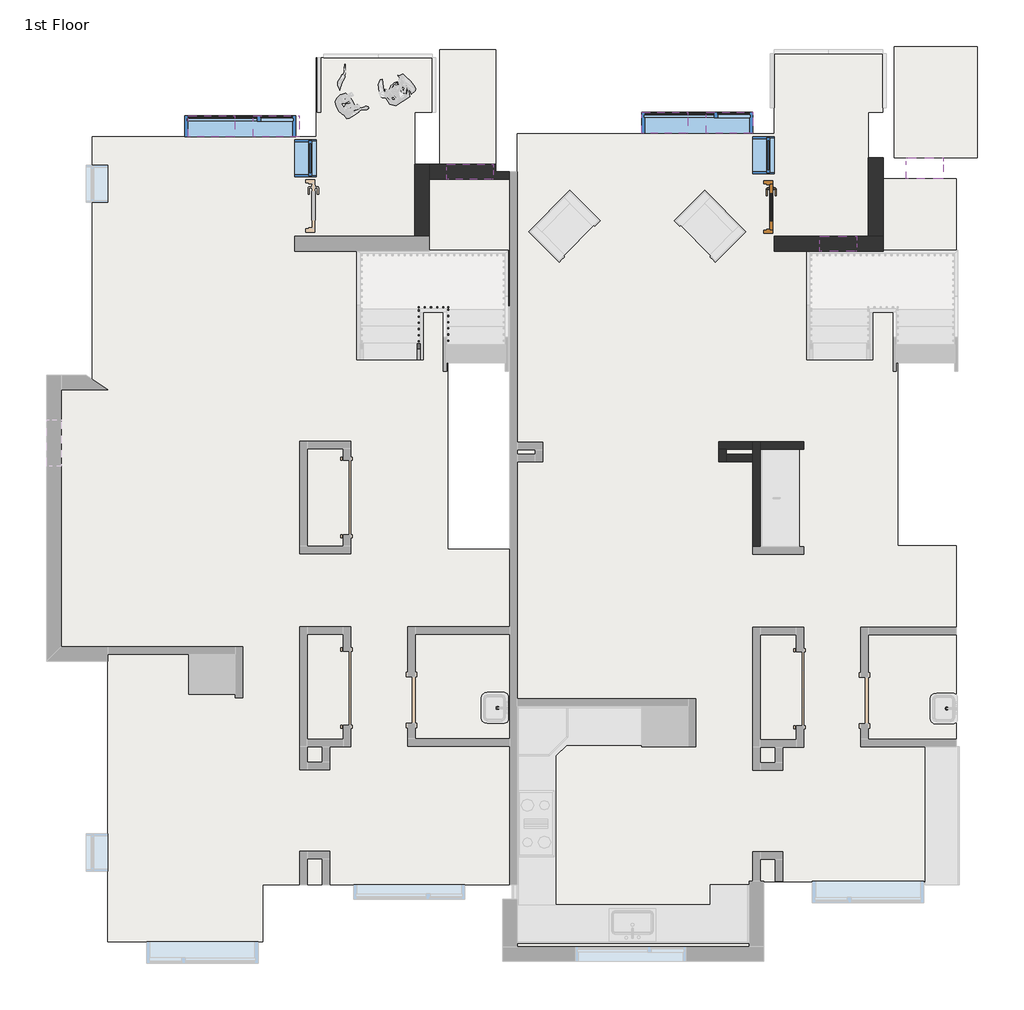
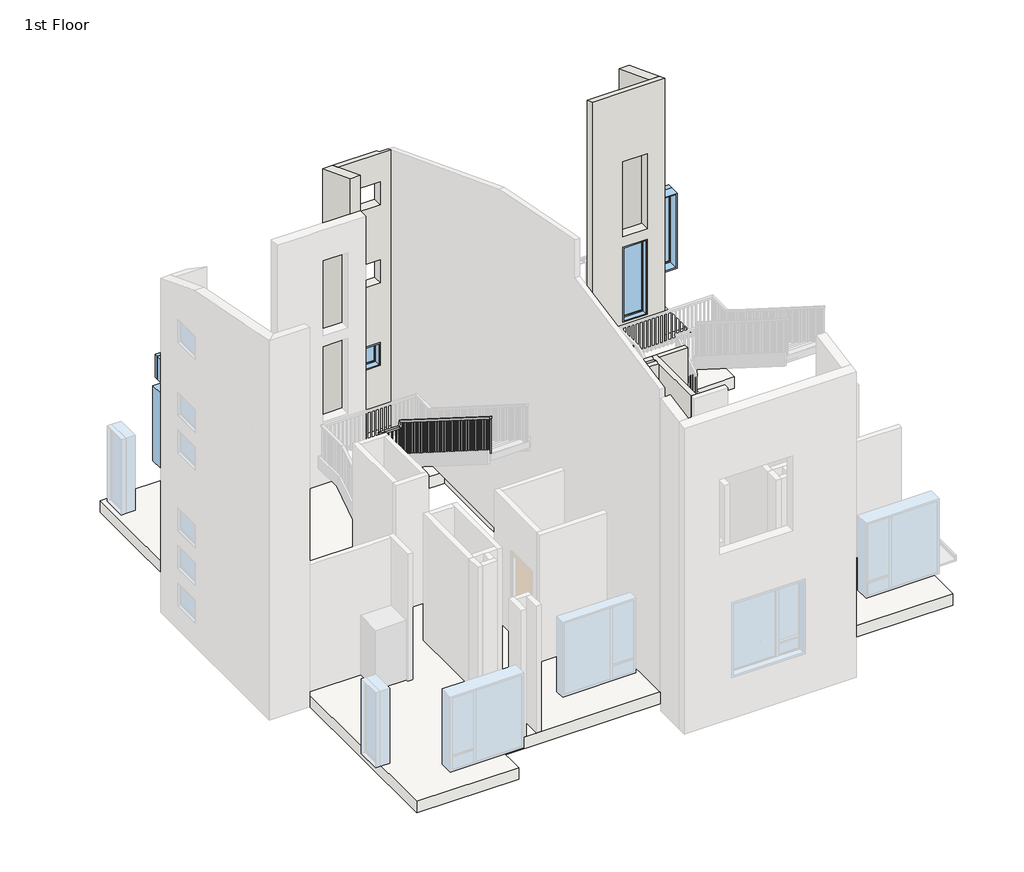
# One storey, part 2 of 6: 11 windows, 9 walls, 2 roofs, 1 door, 1 railing, 1 slab.
"""IFC4 building model written with IfcOpenShell, lengths in millimetres."""

from ifc_helpers import new_model, si_unit, frame, origin, origin_with_axes, place, context, project, spatial, polyline, outline, extrude, faceted_brep, transform, mapped, element, save
from components import door_00adfaa7, window_8bf192ed, window_b6feeaa8, window_2f0d178e, window_b1c1038b, window_8c170f25, window_03925a3a, window_7b40078c

model = new_model("IFC4")

# Units and contexts
model_context = context("Model", 3, world=origin())
ifc_project = project(units=[si_unit("LENGTHUNIT", "METRE", prefix="MILLI")], contexts=[model_context])

# Site, building, storey
site = spatial("IfcSite", under=ifc_project)
building = spatial("IfcBuilding", under=site)
storey = spatial("IfcBuildingStorey", under=building, Name="1st Floor", Elevation=0.0)

# Door
placement = place(None, origin())
door_shape = door_00adfaa7(model_context)
element("IfcDoor", 1, ObjectType="Door-Passage-Single-Full_Lite : 30\" x 84\"", at=placement, inside=storey, context=model_context, shape_type="MappedRepresentation", body=[
    mapped(door_shape, transform((2467.5053219, 5235.7563085, 0.0), x_axis=(0.0, -1.0, 0.0), y_axis=(1.0, 0.0, 0.0), z_axis=(0.0, 0.0, 1.0))),
])

# Railing
element("IfcRailing", 2, ObjectType="Handrail - Rectangular", at=placement, inside=storey, context=model_context, shape_type="SolidModel", body=[
    faceted_brep([(-3224.3663287, 2721.6563085, 1090.8631579), (-3224.3663287, 2721.6563085, 1030.7795781), (-3173.5663287, 2721.6563085, 1030.7795781), (-3173.5663287, 2721.6563085, 1090.8631579), (-3224.3663287, 3483.6563085, 1572.1263158), (-3224.3663287, 3534.4563085, 1544.1269465), (-3173.5663287, 3534.4563085, 1544.1269465), (-3173.5663287, 3483.6563085, 1572.1263158), (-3224.3663287, 3483.6563085, 1620.2526316), (-3224.3663287, 3534.4563085, 1569.4526316), (-3173.5663287, 3534.4563085, 1569.4526316), (-3173.5663287, 3483.6563085, 1620.2526316), (-3224.3663287, 3610.6563085, 1620.2526316), (-3224.3663287, 3610.6563085, 1569.4526316), (-3173.5663287, 3559.8563085, 1569.4526316), (-3173.5663287, 3559.8563085, 1620.2526316), (-3097.3663287, 3610.6563085, 1620.2526316), (-3097.3663287, 3610.6563085, 1569.4526316), (-3097.3663287, 3559.8563085, 1569.4526316), (-3097.3663287, 3559.8563085, 1620.2526316), (-2688.9571781, 3610.6563085, 1620.2526316), (-2688.9571781, 3559.8563085, 1620.2526316), (-2688.9571781, 3559.8563085, 1569.4526316), (-2688.9571781, 3610.6563085, 1569.4526316)], [[[0, 1, 2, 3]], [[1, 0, 4, 5]], [[2, 1, 5, 6]], [[3, 2, 6, 7]], [[0, 3, 7, 4]], [[5, 4, 8, 9]], [[6, 5, 9, 10]], [[7, 6, 10, 11]], [[4, 7, 11, 8]], [[9, 8, 12, 13]], [[10, 9, 13, 14]], [[11, 10, 14, 15]], [[8, 11, 15, 12]], [[13, 12, 16, 17]], [[14, 13, 17, 18]], [[15, 14, 18, 19]], [[12, 15, 19, 16]], [[20, 21, 22, 23]], [[17, 16, 20, 23]], [[18, 17, 23, 22]], [[19, 18, 22, 21]], [[16, 19, 21, 20]]]),
    faceted_brep([(-2688.9571781, 3585.2563085, 1620.2526316), (-2688.9571781, 3535.6297104, 1609.3971833), (-2739.7571781, 3535.6297104, 1609.3971833), (-2739.7571781, 3585.2563085, 1620.2526316), (-2688.9571781, 3546.6563085, 1796.7157895), (-2688.9571781, 3501.5690485, 1765.1083739), (-2739.7571781, 3501.5690485, 1765.1083739), (-2739.7571781, 3546.6563085, 1796.7157895), (-2688.9571781, -364.9436915, 4267.2), (-2739.7571781, -364.9436915, 4267.2), (-2739.7571781, -364.9436915, 4207.1164202), (-2688.9571781, -364.9436915, 4207.1164202)], [[[0, 1, 2, 3]], [[1, 0, 4, 5]], [[2, 1, 5, 6]], [[3, 2, 6, 7]], [[0, 3, 7, 4]], [[8, 9, 10, 11]], [[5, 4, 8, 11]], [[6, 5, 11, 10]], [[7, 6, 10, 9]], [[4, 7, 9, 8]]]),
    extrude(outline(polyline([(-323.6686915, 4181.0479991), (-304.6186915, 4169.0164202), (-304.6186915, 3176.3368421), (-323.6686915, 3176.3368421), (-323.6686915, 4181.0479991)])), frame((-2723.8821781, 0.0, 0.0), z_axis=(1.0, 0.0, 0.0), x_axis=(0.0, 1.0, 0.0)), (0.0, 0.0, 1.0), 19.05),
    extrude(outline(polyline([(-222.0686915, 4116.8795781), (-203.0186915, 4104.8479991), (-203.0186915, 3176.3368421), (-222.0686915, 3176.3368421), (-222.0686915, 4116.8795781)])), frame((-2723.8821781, 0.0, 0.0), z_axis=(1.0, 0.0, 0.0), x_axis=(0.0, 1.0, 0.0)), (0.0, 0.0, 1.0), 19.05),
    extrude(outline(polyline([(-120.4686915, 4052.711157), (-101.4186915, 4040.6795781), (-101.4186915, 3176.3368421), (-120.4686915, 3176.3368421), (-120.4686915, 4052.711157)])), frame((-2723.8821781, 0.0, 0.0), z_axis=(1.0, 0.0, 0.0), x_axis=(0.0, 1.0, 0.0)), (0.0, 0.0, 1.0), 19.05),
    extrude(outline(polyline([(-18.8686915, 3988.542736), (0.1813085, 3976.511157), (0.1813085, 2999.8736842), (-18.8686915, 2999.8736842), (-18.8686915, 3988.542736)])), frame((-2723.8821781, 0.0, 0.0), z_axis=(1.0, 0.0, 0.0), x_axis=(0.0, 1.0, 0.0)), (0.0, 0.0, 1.0), 19.05),
    extrude(outline(polyline([(82.7313085, 3924.3743149), (101.7813085, 3912.342736), (101.7813085, 2999.8736842), (82.7313085, 2999.8736842), (82.7313085, 3924.3743149)])), frame((-2723.8821781, 0.0, 0.0), z_axis=(1.0, 0.0, 0.0), x_axis=(0.0, 1.0, 0.0)), (0.0, 0.0, 1.0), 19.05),
    extrude(outline(polyline([(184.3313085, 3860.2058939), (203.3813085, 3848.1743149), (203.3813085, 2999.8736842), (184.3313085, 2999.8736842), (184.3313085, 3860.2058939)])), frame((-2723.8821781, 0.0, 0.0), z_axis=(1.0, 0.0, 0.0), x_axis=(0.0, 1.0, 0.0)), (0.0, 0.0, 1.0), 19.05),
    extrude(outline(polyline([(285.9313085, 3796.0374728), (304.9813085, 3784.0058939), (304.9813085, 2823.4105263), (285.9313085, 2823.4105263), (285.9313085, 3796.0374728)])), frame((-2723.8821781, 0.0, 0.0), z_axis=(1.0, 0.0, 0.0), x_axis=(0.0, 1.0, 0.0)), (0.0, 0.0, 1.0), 19.05),
    extrude(outline(polyline([(387.5313085, 3731.8690517), (406.5813085, 3719.8374728), (406.5813085, 2823.4105263), (387.5313085, 2823.4105263), (387.5313085, 3731.8690517)])), frame((-2723.8821781, 0.0, 0.0), z_axis=(1.0, 0.0, 0.0), x_axis=(0.0, 1.0, 0.0)), (0.0, 0.0, 1.0), 19.05),
    extrude(outline(polyline([(489.1313085, 3667.7006307), (508.1813085, 3655.6690517), (508.1813085, 2646.9473684), (489.1313085, 2646.9473684), (489.1313085, 3667.7006307)])), frame((-2723.8821781, 0.0, 0.0), z_axis=(1.0, 0.0, 0.0), x_axis=(0.0, 1.0, 0.0)), (0.0, 0.0, 1.0), 19.05),
    extrude(outline(polyline([(590.7313085, 3603.5322096), (609.7813085, 3591.5006307), (609.7813085, 2646.9473684), (590.7313085, 2646.9473684), (590.7313085, 3603.5322096)])), frame((-2723.8821781, 0.0, 0.0), z_axis=(1.0, 0.0, 0.0), x_axis=(0.0, 1.0, 0.0)), (0.0, 0.0, 1.0), 19.05),
    extrude(outline(polyline([(692.3313085, 3539.3637886), (711.3813085, 3527.3322096), (711.3813085, 2646.9473684), (692.3313085, 2646.9473684), (692.3313085, 3539.3637886)])), frame((-2723.8821781, 0.0, 0.0), z_axis=(1.0, 0.0, 0.0), x_axis=(0.0, 1.0, 0.0)), (0.0, 0.0, 1.0), 19.05),
    extrude(outline(polyline([(793.9313085, 3475.1953675), (812.9813085, 3463.1637886), (812.9813085, 2470.4842105), (793.9313085, 2470.4842105), (793.9313085, 3475.1953675)])), frame((-2723.8821781, 0.0, 0.0), z_axis=(1.0, 0.0, 0.0), x_axis=(0.0, 1.0, 0.0)), (0.0, 0.0, 1.0), 19.05),
    extrude(outline(polyline([(895.5313085, 3411.0269465), (914.5813085, 3398.9953675), (914.5813085, 2470.4842105), (895.5313085, 2470.4842105), (895.5313085, 3411.0269465)])), frame((-2723.8821781, 0.0, 0.0), z_axis=(1.0, 0.0, 0.0), x_axis=(0.0, 1.0, 0.0)), (0.0, 0.0, 1.0), 19.05),
    extrude(outline(polyline([(997.1313085, 3346.8585254), (1016.1813085, 3334.8269465), (1016.1813085, 2470.4842105), (997.1313085, 2470.4842105), (997.1313085, 3346.8585254)])), frame((-2723.8821781, 0.0, 0.0), z_axis=(1.0, 0.0, 0.0), x_axis=(0.0, 1.0, 0.0)), (0.0, 0.0, 1.0), 19.05),
    extrude(outline(polyline([(1098.7313085, 3282.6901044), (1117.7813085, 3270.6585254), (1117.7813085, 2294.0210526), (1098.7313085, 2294.0210526), (1098.7313085, 3282.6901044)])), frame((-2723.8821781, 0.0, 0.0), z_axis=(1.0, 0.0, 0.0), x_axis=(0.0, 1.0, 0.0)), (0.0, 0.0, 1.0), 19.05),
    extrude(outline(polyline([(1200.3313085, 3218.5216833), (1219.3813085, 3206.4901044), (1219.3813085, 2294.0210526), (1200.3313085, 2294.0210526), (1200.3313085, 3218.5216833)])), frame((-2723.8821781, 0.0, 0.0), z_axis=(1.0, 0.0, 0.0), x_axis=(0.0, 1.0, 0.0)), (0.0, 0.0, 1.0), 19.05),
    extrude(outline(polyline([(1301.9313085, 3154.3532623), (1320.9813085, 3142.3216833), (1320.9813085, 2294.0210526), (1301.9313085, 2294.0210526), (1301.9313085, 3154.3532623)])), frame((-2723.8821781, 0.0, 0.0), z_axis=(1.0, 0.0, 0.0), x_axis=(0.0, 1.0, 0.0)), (0.0, 0.0, 1.0), 19.05),
    extrude(outline(polyline([(1403.5313085, 3090.1848412), (1422.5813085, 3078.1532623), (1422.5813085, 2117.5578947), (1403.5313085, 2117.5578947), (1403.5313085, 3090.1848412)])), frame((-2723.8821781, 0.0, 0.0), z_axis=(1.0, 0.0, 0.0), x_axis=(0.0, 1.0, 0.0)), (0.0, 0.0, 1.0), 19.05),
    extrude(outline(polyline([(1505.1313085, 3026.0164202), (1524.1813085, 3013.9848412), (1524.1813085, 2117.5578947), (1505.1313085, 2117.5578947), (1505.1313085, 3026.0164202)])), frame((-2723.8821781, 0.0, 0.0), z_axis=(1.0, 0.0, 0.0), x_axis=(0.0, 1.0, 0.0)), (0.0, 0.0, 1.0), 19.05),
    extrude(outline(polyline([(1606.7313085, 2961.8479991), (1625.7813085, 2949.8164202), (1625.7813085, 1941.0947368), (1606.7313085, 1941.0947368), (1606.7313085, 2961.8479991)])), frame((-2723.8821781, 0.0, 0.0), z_axis=(1.0, 0.0, 0.0), x_axis=(0.0, 1.0, 0.0)), (0.0, 0.0, 1.0), 19.05),
    extrude(outline(polyline([(1708.3313085, 2897.6795781), (1727.3813085, 2885.6479991), (1727.3813085, 1941.0947368), (1708.3313085, 1941.0947368), (1708.3313085, 2897.6795781)])), frame((-2723.8821781, 0.0, 0.0), z_axis=(1.0, 0.0, 0.0), x_axis=(0.0, 1.0, 0.0)), (0.0, 0.0, 1.0), 19.05),
    extrude(outline(polyline([(1809.9313085, 2833.511157), (1828.9813085, 2821.4795781), (1828.9813085, 1941.0947368), (1809.9313085, 1941.0947368), (1809.9313085, 2833.511157)])), frame((-2723.8821781, 0.0, 0.0), z_axis=(1.0, 0.0, 0.0), x_axis=(0.0, 1.0, 0.0)), (0.0, 0.0, 1.0), 19.05),
    extrude(outline(polyline([(1911.5313085, 2769.342736), (1930.5813085, 2757.311157), (1930.5813085, 1764.6315789), (1911.5313085, 1764.6315789), (1911.5313085, 2769.342736)])), frame((-2723.8821781, 0.0, 0.0), z_axis=(1.0, 0.0, 0.0), x_axis=(0.0, 1.0, 0.0)), (0.0, 0.0, 1.0), 19.05),
    extrude(outline(polyline([(2013.1313085, 2705.1743149), (2032.1813085, 2693.142736), (2032.1813085, 1764.6315789), (2013.1313085, 1764.6315789), (2013.1313085, 2705.1743149)])), frame((-2723.8821781, 0.0, 0.0), z_axis=(1.0, 0.0, 0.0), x_axis=(0.0, 1.0, 0.0)), (0.0, 0.0, 1.0), 19.05),
    extrude(outline(polyline([(2114.7313085, 2641.0058939), (2133.7813085, 2628.9743149), (2133.7813085, 1764.6315789), (2114.7313085, 1764.6315789), (2114.7313085, 2641.0058939)])), frame((-2723.8821781, 0.0, 0.0), z_axis=(1.0, 0.0, 0.0), x_axis=(0.0, 1.0, 0.0)), (0.0, 0.0, 1.0), 19.05),
    extrude(outline(polyline([(2216.3313085, 2576.8374728), (2235.3813085, 2564.8058939), (2235.3813085, 1588.1684211), (2216.3313085, 1588.1684211), (2216.3313085, 2576.8374728)])), frame((-2723.8821781, 0.0, 0.0), z_axis=(1.0, 0.0, 0.0), x_axis=(0.0, 1.0, 0.0)), (0.0, 0.0, 1.0), 19.05),
    extrude(outline(polyline([(2317.9313085, 2512.6690517), (2336.9813085, 2500.6374728), (2336.9813085, 1588.1684211), (2317.9313085, 1588.1684211), (2317.9313085, 2512.6690517)])), frame((-2723.8821781, 0.0, 0.0), z_axis=(1.0, 0.0, 0.0), x_axis=(0.0, 1.0, 0.0)), (0.0, 0.0, 1.0), 19.05),
    extrude(outline(polyline([(2419.5313085, 2448.5006307), (2438.5813085, 2436.4690517), (2438.5813085, 1588.1684211), (2419.5313085, 1588.1684211), (2419.5313085, 2448.5006307)])), frame((-2723.8821781, 0.0, 0.0), z_axis=(1.0, 0.0, 0.0), x_axis=(0.0, 1.0, 0.0)), (0.0, 0.0, 1.0), 19.05),
    extrude(outline(polyline([(2521.1313085, 2384.3322096), (2540.1813085, 2372.3006307), (2540.1813085, 1411.7052632), (2521.1313085, 1411.7052632), (2521.1313085, 2384.3322096)])), frame((-2723.8821781, 0.0, 0.0), z_axis=(1.0, 0.0, 0.0), x_axis=(0.0, 1.0, 0.0)), (0.0, 0.0, 1.0), 19.05),
    extrude(outline(polyline([(2622.7313085, 2320.1637886), (2641.7813085, 2308.1322096), (2641.7813085, 1411.7052632), (2622.7313085, 1411.7052632), (2622.7313085, 2320.1637886)])), frame((-2723.8821781, 0.0, 0.0), z_axis=(1.0, 0.0, 0.0), x_axis=(0.0, 1.0, 0.0)), (0.0, 0.0, 1.0), 19.05),
    extrude(outline(polyline([(2724.3313085, 2255.9953675), (2743.3813085, 2243.9637886), (2743.3813085, 1235.2421053), (2724.3313085, 1235.2421053), (2724.3313085, 2255.9953675)])), frame((-2723.8821781, 0.0, 0.0), z_axis=(1.0, 0.0, 0.0), x_axis=(0.0, 1.0, 0.0)), (0.0, 0.0, 1.0), 19.05),
    extrude(outline(polyline([(2825.9313085, 2191.8269465), (2844.9813085, 2179.7953675), (2844.9813085, 1235.2421053), (2825.9313085, 1235.2421053), (2825.9313085, 2191.8269465)])), frame((-2723.8821781, 0.0, 0.0), z_axis=(1.0, 0.0, 0.0), x_axis=(0.0, 1.0, 0.0)), (0.0, 0.0, 1.0), 19.05),
    extrude(outline(polyline([(2927.5313085, 2127.6585254), (2946.5813085, 2115.6269465), (2946.5813085, 1235.2421053), (2927.5313085, 1235.2421053), (2927.5313085, 2127.6585254)])), frame((-2723.8821781, 0.0, 0.0), z_axis=(1.0, 0.0, 0.0), x_axis=(0.0, 1.0, 0.0)), (0.0, 0.0, 1.0), 19.05),
    extrude(outline(polyline([(3029.1313085, 2063.4901044), (3048.1813085, 2051.4585254), (3048.1813085, 1058.7789474), (3029.1313085, 1058.7789474), (3029.1313085, 2063.4901044)])), frame((-2723.8821781, 0.0, 0.0), z_axis=(1.0, 0.0, 0.0), x_axis=(0.0, 1.0, 0.0)), (0.0, 0.0, 1.0), 19.05),
    extrude(outline(polyline([(3130.7313085, 1999.3216833), (3149.7813085, 1987.2901044), (3149.7813085, 1058.7789474), (3130.7313085, 1058.7789474), (3130.7313085, 1999.3216833)])), frame((-2723.8821781, 0.0, 0.0), z_axis=(1.0, 0.0, 0.0), x_axis=(0.0, 1.0, 0.0)), (0.0, 0.0, 1.0), 19.05),
    extrude(outline(polyline([(3232.3313085, 1935.1532623), (3251.3813085, 1923.1216833), (3251.3813085, 1058.7789474), (3232.3313085, 1058.7789474), (3232.3313085, 1935.1532623)])), frame((-2723.8821781, 0.0, 0.0), z_axis=(1.0, 0.0, 0.0), x_axis=(0.0, 1.0, 0.0)), (0.0, 0.0, 1.0), 19.05),
    extrude(outline(polyline([(3333.9313085, 1870.9848412), (3352.9813085, 1858.9532623), (3352.9813085, 882.3157895), (3333.9313085, 882.3157895), (3333.9313085, 1870.9848412)])), frame((-2723.8821781, 0.0, 0.0), z_axis=(1.0, 0.0, 0.0), x_axis=(0.0, 1.0, 0.0)), (0.0, 0.0, 1.0), 19.05),
    extrude(outline(polyline([(3435.5313085, 1806.8164202), (3454.5813085, 1794.7848412), (3454.5813085, 882.3157895), (3435.5313085, 882.3157895), (3435.5313085, 1806.8164202)])), frame((-2723.8821781, 0.0, 0.0), z_axis=(1.0, 0.0, 0.0), x_axis=(0.0, 1.0, 0.0)), (0.0, 0.0, 1.0), 19.05),
    extrude(outline(polyline([(-2802.0913287, 3575.7313085), (-2802.0913287, 3594.7813085), (-2783.0413287, 3594.7813085), (-2783.0413287, 3575.7313085), (-2802.0913287, 3575.7313085)])), frame((0.0, 0.0, 705.8526316), z_axis=(0.0, 0.0, 1.0), x_axis=(1.0, 0.0, 0.0)), (0.0, 0.0, 1.0), 863.6),
    extrude(outline(polyline([(-2903.6913287, 3575.7313085), (-2903.6913287, 3594.7813085), (-2884.6413287, 3594.7813085), (-2884.6413287, 3575.7313085), (-2903.6913287, 3575.7313085)])), frame((0.0, 0.0, 705.8526316), z_axis=(0.0, 0.0, 1.0), x_axis=(1.0, 0.0, 0.0)), (0.0, 0.0, 1.0), 863.6),
    extrude(outline(polyline([(-3005.2913287, 3575.7313085), (-3005.2913287, 3594.7813085), (-2986.2413287, 3594.7813085), (-2986.2413287, 3575.7313085), (-3005.2913287, 3575.7313085)])), frame((0.0, 0.0, 705.8526316), z_axis=(0.0, 0.0, 1.0), x_axis=(1.0, 0.0, 0.0)), (0.0, 0.0, 1.0), 863.6),
    extrude(outline(polyline([(-3106.8913287, 3575.7313085), (-3106.8913287, 3594.7813085), (-3087.8413287, 3594.7813085), (-3087.8413287, 3575.7313085), (-3106.8913287, 3575.7313085)])), frame((0.0, 0.0, 705.8526316), z_axis=(0.0, 0.0, 1.0), x_axis=(1.0, 0.0, 0.0)), (0.0, 0.0, 1.0), 863.6),
    extrude(outline(polyline([(-3189.4413287, 3524.9313085), (-3208.4913287, 3524.9313085), (-3208.4913287, 3543.9813085), (-3189.4413287, 3543.9813085), (-3189.4413287, 3524.9313085)])), frame((0.0, 0.0, 529.3894737), z_axis=(0.0, 0.0, 1.0), x_axis=(1.0, 0.0, 0.0)), (0.0, 0.0, 1.0), 1040.0631579),
    extrude(outline(polyline([(3423.3313085, 1473.942736), (3442.3813085, 1485.9743149), (3442.3813085, 529.3894737), (3423.3313085, 529.3894737), (3423.3313085, 1473.942736)])), frame((-3208.4913287, 0.0, 0.0), z_axis=(1.0, 0.0, 0.0), x_axis=(0.0, 1.0, 0.0)), (0.0, 0.0, 1.0), 19.05),
    extrude(outline(polyline([(3321.7313085, 1409.7743149), (3340.7813085, 1421.8058939), (3340.7813085, 529.3894737), (3321.7313085, 529.3894737), (3321.7313085, 1409.7743149)])), frame((-3208.4913287, 0.0, 0.0), z_axis=(1.0, 0.0, 0.0), x_axis=(0.0, 1.0, 0.0)), (0.0, 0.0, 1.0), 19.05),
    extrude(outline(polyline([(3220.1313085, 1345.6058939), (3239.1813085, 1357.6374728), (3239.1813085, 352.9263158), (3220.1313085, 352.9263158), (3220.1313085, 1345.6058939)])), frame((-3208.4913287, 0.0, 0.0), z_axis=(1.0, 0.0, 0.0), x_axis=(0.0, 1.0, 0.0)), (0.0, 0.0, 1.0), 19.05),
    extrude(outline(polyline([(3118.5313085, 1281.4374728), (3137.5813085, 1293.4690517), (3137.5813085, 352.9263158), (3118.5313085, 352.9263158), (3118.5313085, 1281.4374728)])), frame((-3208.4913287, 0.0, 0.0), z_axis=(1.0, 0.0, 0.0), x_axis=(0.0, 1.0, 0.0)), (0.0, 0.0, 1.0), 19.05),
    extrude(outline(polyline([(3016.9313085, 1217.2690517), (3035.9813085, 1229.3006307), (3035.9813085, 352.9263158), (3016.9313085, 352.9263158), (3016.9313085, 1217.2690517)])), frame((-3208.4913287, 0.0, 0.0), z_axis=(1.0, 0.0, 0.0), x_axis=(0.0, 1.0, 0.0)), (0.0, 0.0, 1.0), 19.05),
    extrude(outline(polyline([(2915.3313085, 1153.1006307), (2934.3813085, 1165.1322096), (2934.3813085, 176.4631579), (2915.3313085, 176.4631579), (2915.3313085, 1153.1006307)])), frame((-3208.4913287, 0.0, 0.0), z_axis=(1.0, 0.0, 0.0), x_axis=(0.0, 1.0, 0.0)), (0.0, 0.0, 1.0), 19.05),
    extrude(outline(polyline([(2813.7313085, 1088.9322096), (2832.7813085, 1100.9637886), (2832.7813085, 176.4631579), (2813.7313085, 176.4631579), (2813.7313085, 1088.9322096)])), frame((-3208.4913287, 0.0, 0.0), z_axis=(1.0, 0.0, 0.0), x_axis=(0.0, 1.0, 0.0)), (0.0, 0.0, 1.0), 19.05),
    extrude(outline(polyline([(3537.1313085, 1602.5325007), (3556.1813085, 1515.4438178), (3556.1813085, 705.8526316), (3537.1313085, 705.8526316), (3537.1313085, 1602.5325007)])), frame((-2723.8821781, 0.0, 0.0), z_axis=(1.0, 0.0, 0.0), x_axis=(0.0, 1.0, 0.0)), (0.0, 0.0, 1.0), 19.05),
    extrude(outline(polyline([(-2723.8821781, 3575.7313085), (-2723.8821781, 3594.7813085), (-2704.8321781, 3594.7813085), (-2704.8321781, 3575.7313085), (-2723.8821781, 3575.7313085)])), frame((0.0, 0.0, 705.8526316), z_axis=(0.0, 0.0, 1.0), x_axis=(1.0, 0.0, 0.0)), (0.0, 0.0, 1.0), 863.6),
    extrude(outline(polyline([(-3189.4413287, 3575.7313085), (-3208.4913287, 3575.7313085), (-3208.4913287, 3594.7813085), (-3189.4413287, 3594.7813085), (-3189.4413287, 3575.7313085)])), frame((0.0, 0.0, 705.8526316), z_axis=(0.0, 0.0, 1.0), x_axis=(1.0, 0.0, 0.0)), (0.0, 0.0, 1.0), 863.6),
    extrude(outline(polyline([(-364.9436915, 4207.1164202), (-345.8936915, 4195.0848412), (-345.8936915, 3176.3368421), (-364.9436915, 3176.3368421), (-364.9436915, 4207.1164202)])), frame((-2723.8821781, 0.0, 0.0), z_axis=(1.0, 0.0, 0.0), x_axis=(0.0, 1.0, 0.0)), (0.0, 0.0, 1.0), 19.05),
    extrude(outline(polyline([(2721.6563085, 1030.7795781), (2740.7063085, 1042.811157), (2740.7063085, 176.4631579), (2721.6563085, 176.4631579), (2721.6563085, 1030.7795781)])), frame((-3208.4913287, 0.0, 0.0), z_axis=(1.0, 0.0, 0.0), x_axis=(0.0, 1.0, 0.0)), (0.0, 0.0, 1.0), 19.05),
])

# Roofs
element("IfcRoof", 3, ObjectType="Generic - 12\"", at=placement, inside=storey, context=model_context, shape_type="SweptSolid", body=[
    extrude(outline(polyline([(5995.0780789, 7877.8813085), (5995.0780789, 6051.0812973), (4622.3681157, 6051.0812973), (4622.3681157, 7877.8813085), (5995.0780789, 7877.8813085)])), frame((0.0, 0.0, -762.0), z_axis=(0.0, 0.0, 1.0), x_axis=(1.0, 0.0, 0.0)), (0.0, 0.0, 1.0), 304.8),
])
element("IfcRoof", 4, ObjectType="Generic - 12\"", at=placement, inside=storey, context=model_context, shape_type="SweptSolid", body=[
    extrude(outline(polyline([(-1928.5446781, 7822.3188085), (-1928.5446781, 5938.3687973), (-2852.9735601, 5938.3687973), (-2852.9735601, 7822.3188085), (-1928.5446781, 7822.3188085)])), frame((0.0, 0.0, -762.0), z_axis=(0.0, 0.0, 1.0), x_axis=(1.0, 0.0, 0.0)), (0.0, 0.0, 1.0), 304.8),
])

# Slab
element("IfcSlab", 5, ObjectType="Generic - 12\"", at=placement, inside=storey, context=model_context, shape_type="Brep", body=[
    faceted_brep([(-4883.0196781, 6389.4938085, -304.8), (-4883.0196781, 7689.6125585, -304.8), (-2974.5886971, 7689.6125585, -304.8), (-2974.5886971, 6797.6813085, -304.8), (-3266.2735601, 6797.6813085, -304.8), (-3266.2735601, 5697.0687973, -304.8), (-1576.1196781, 5697.0687973, -304.8), (-1576.1196781, 6447.0188085, -304.8), (2650.0678219, 6447.0188085, -304.8), (2650.0678219, 7819.5812973, -304.8), (4438.9264399, 7819.5812973, -304.8), (4438.9264399, 6797.6813085, -304.8), (4200.8014399, 6797.6813085, -304.8), (4200.8014399, 5698.6562973, -304.8), (5642.6530789, 5698.6562973, -304.8), (5642.6530789, 3572.0563085, -304.8), (4682.2155789, 3572.0563085, -304.8), (4682.2155789, -337.0811915, -304.8), (5642.6530789, -337.0811915, -304.8), (5642.6530789, -5861.4671456, -304.8), (2236.5178219, -5861.4671456, -304.8), (2236.5178219, -6933.9311915, -304.8), (-1576.1196784, -6933.9311915, -304.8), (-1576.1196779, -5913.8546456, -304.8), (-5765.8946781, -5913.8546456, -304.8), (-5765.8946781, -6854.1186915, -304.8), (-8312.2446781, -6854.1186915, -304.8), (-8312.2446781, -1997.5436915, -304.8), (-8664.6696781, -1997.5436915, -304.8), (-9080.4946781, -1997.5436915, -304.8), (-9080.4946781, 2230.7574206, -304.8), (-8664.6696781, 2230.7574206, -304.8), (-8566.5821781, 2230.7574206, -304.8), (-8566.5821781, 6389.4938085, -304.8), (-8312.2446781, 6389.4938085, -304.8), (-2715.9446781, -384.9686915, -304.8), (-1576.1196781, -384.9686915, -304.8), (-1576.1196781, 3603.8062973, -304.8), (-2715.9446781, 3603.8062973, -304.8), (-4883.0196781, 6389.4938085, 0.0), (-8312.2446781, 6389.4938085, 0.0), (-8566.5821781, 6389.4938085, 0.0), (-8566.5821781, 2404.8984116, 0.0), (-8566.5821781, 2230.7574206, 0.0), (-9080.4946781, 2230.7574206, 0.0), (-9080.4946781, -1997.5436915, 0.0), (-8312.2446781, -1997.5436915, 0.0), (-8312.2446781, -6854.1186915, 0.0), (-5765.8946781, -6854.1186915, 0.0), (-5765.8946781, -5913.8546456, 0.0), (-1576.1196779, -5913.8546456, 0.0), (-1576.1196784, -6933.9311915, 0.0), (2236.5178219, -6933.9311915, 0.0), (2236.5178219, -5861.4671456, 0.0), (5642.6530789, -5861.4671456, 0.0), (5642.6530789, -337.0811915, 0.0), (4682.2155789, -337.0811915, 0.0), (4682.2155789, 3572.0563085, 0.0), (5642.6530789, 3572.0563085, 0.0), (5642.6530789, 5698.6562973, 0.0), (4200.8014399, 5698.6562973, 0.0), (4200.8014399, 6797.6813085, 0.0), (4438.9264399, 6797.6813085, 0.0), (4438.9264399, 7819.5812973, 0.0), (2650.0678219, 7819.5812973, 0.0), (2650.0678219, 6447.0188085, 0.0), (-1576.1196781, 6447.0188085, 0.0), (-1576.1196781, 5697.0687973, 0.0), (-3266.2735601, 5697.0687973, 0.0), (-3266.2735601, 6797.6813085, 0.0), (-2974.5886971, 6797.6813085, 0.0), (-2974.5886971, 7689.6125585, 0.0), (-4883.0196781, 7689.6125585, 0.0), (-2715.9446781, -384.9686915, 0.0), (-2715.9446781, 3603.8062973, 0.0), (-1576.1196781, 3603.8062973, 0.0), (-1576.1196781, -384.9686915, 0.0), (-8312.2446781, -1997.5436915, -28.575), (-8566.5821781, 2230.7574206, -28.575)], [[[0, 1, 2, 3, 4, 5, 6, 7, 8, 9, 10, 11, 12, 13, 14, 15, 16, 17, 18, 19, 20, 21, 22, 23, 24, 25, 26, 27, 28, 29, 30, 31, 32, 33, 34], [35, 36, 37, 38]], [[39, 40, 41, 42, 43, 44, 45, 46, 47, 48, 49, 50, 51, 52, 53, 54, 55, 56, 57, 58, 59, 60, 61, 62, 63, 64, 65, 66, 67, 68, 69, 70, 71, 72], [73, 74, 75, 76]], [[1, 0, 39, 72]], [[2, 1, 72, 71]], [[3, 2, 71, 70]], [[4, 3, 70, 69]], [[5, 4, 69, 68]], [[6, 5, 68, 67]], [[7, 6, 67, 66]], [[8, 7, 66, 65]], [[9, 8, 65, 64]], [[10, 9, 64, 63]], [[11, 10, 63, 62]], [[12, 11, 62, 61]], [[13, 12, 61, 60]], [[14, 13, 60, 59]], [[15, 14, 59, 58]], [[16, 15, 58, 57]], [[17, 16, 57, 56]], [[18, 17, 56, 55]], [[19, 18, 55, 54]], [[20, 19, 54, 53]], [[21, 20, 53, 52]], [[22, 21, 52, 51]], [[23, 22, 51, 50]], [[24, 23, 50, 49]], [[25, 24, 49, 48]], [[26, 25, 48, 47]], [[27, 26, 47, 46, 77]], [[29, 28, 27, 77, 46, 45]], [[30, 29, 45, 44]], [[32, 31, 30, 44, 43, 78]], [[33, 32, 78, 43, 42, 41]], [[0, 34, 33, 41, 40, 39]], [[36, 35, 73, 76]], [[37, 36, 76, 75]], [[38, 37, 75, 74]], [[35, 38, 74, 73]]]),
])

# Walls
element("IfcWall", 6, ObjectType="Exterior - Stucco", at=placement, inside=storey, context=model_context, shape_type="Brep", body=[
    faceted_brep([(-3024.9735601, 4753.1563085, 0.0), (-3024.9735601, 5697.0687973, 0.0), (-3024.9735601, 5938.3687973, 0.0), (-3024.9735601, 5938.3687973, 7177.3038799), (-3024.9735601, 5697.0687973, 7270.1976451), (-3024.9735601, 4753.1563085, 7633.5776082), (-3024.9735601, 4753.1563085, 6705.6), (-3266.2735601, 4753.1563085, 0.0), (-3266.2735601, 4753.1563085, 7633.5776082), (-3266.2735601, 5938.3687973, 7177.3038799), (-3266.2735601, 5938.3687973, 0.0)], [[[0, 1, 2, 3, 4, 5, 6]], [[7, 8, 9, 10]], [[2, 1, 0, 7, 10]], [[3, 2, 10, 9]], [[0, 6, 5, 8, 7]], [[5, 4, 3, 9, 8]]]),
])
element("IfcWall", 7, ObjectType="Exterior - Stucco", at=placement, inside=storey, context=model_context, shape_type="Brep", body=[
    faceted_brep([(-1928.5446781, 5938.3687973, 0.0), (-3024.9735601, 5938.3687973, 0.0), (-3024.9735601, 5938.3687973, 7177.3038799), (-1928.5446781, 5938.3687973, 7177.3038799), (-1974.5821781, 5938.3687973, 5918.2), (-1974.5821781, 5938.3687973, 6527.8), (-2736.5821781, 5938.3687973, 6527.8), (-2736.5821781, 5938.3687973, 5918.2), (-1974.5821781, 5938.3687973, 4470.4), (-2736.5821781, 5938.3687973, 4470.4), (-2736.5821781, 5938.3687973, 3860.8), (-1974.5821781, 5938.3687973, 3860.8), (-1974.5821781, 5938.3687973, 2286.0), (-2736.5821781, 5938.3687973, 2286.0), (-2736.5821781, 5938.3687973, 1676.4), (-1974.5821781, 5938.3687973, 1676.4), (-3024.9735601, 5697.0687973, 0.0), (-1699.9446781, 5697.0687973, 0.0), (-1699.9446781, 5697.0687973, 7270.1976451), (-3024.9735601, 5697.0687973, 7270.1976451), (-1974.5821781, 5697.0687973, 6527.8), (-1974.5821781, 5697.0687973, 5918.2), (-2736.5821781, 5697.0687973, 5918.2), (-2736.5821781, 5697.0687973, 6527.8), (-1974.5821781, 5697.0687973, 4470.4), (-1974.5821781, 5697.0687973, 3860.8), (-2736.5821781, 5697.0687973, 3860.8), (-2736.5821781, 5697.0687973, 4470.4), (-1974.5821781, 5697.0687973, 2286.0), (-1974.5821781, 5697.0687973, 1676.4), (-2736.5821781, 5697.0687973, 1676.4), (-2736.5821781, 5697.0687973, 2286.0), (-1928.5446781, 5817.7187973, 0.0), (-1699.9446781, 5817.7187973, 0.0), (-1699.9446781, 5817.7187973, 7223.7507625), (-1928.5446781, 5817.7187973, 7223.7507625)], [[[0, 1, 2, 3], [4, 5, 6, 7], [8, 9, 10, 11], [12, 13, 14, 15]], [[16, 17, 18, 19], [20, 21, 22, 23], [24, 25, 26, 27], [28, 29, 30, 31]], [[17, 16, 1, 0, 32, 33]], [[16, 19, 2, 1]], [[19, 18, 34, 35, 3, 2]], [[18, 17, 33, 34]], [[33, 32, 35, 34]], [[0, 3, 35, 32]], [[20, 5, 4, 21]], [[21, 4, 7, 22]], [[22, 7, 6, 23]], [[5, 20, 23, 6]], [[25, 24, 8, 11]], [[26, 25, 11, 10]], [[27, 26, 10, 9]], [[24, 27, 9, 8]], [[29, 28, 12, 15]], [[30, 29, 15, 14]], [[31, 30, 14, 13]], [[28, 31, 13, 12]]]),
])
element("IfcWall", 8, ObjectType="Exterior - Stucco", at=placement, inside=storey, context=model_context, shape_type="Brep", body=[
    faceted_brep([(2650.0678219, 4753.1563085, 0.0), (2650.0678219, 4753.1563085, 7633.5776082), (4200.8014399, 4753.1563085, 7633.5776082), (4442.1014399, 4753.1563085, 7633.5776082), (4442.1014399, 4753.1563085, 0.0), (4200.8014399, 4753.1563085, 0.0), (4007.1264399, 4753.1563085, 5892.8), (3397.5264399, 4753.1563085, 5892.8), (3397.5264399, 4753.1563085, 3911.6), (4007.1264399, 4753.1563085, 3911.6), (4007.1264399, 4753.1563085, 3632.2), (3397.5264399, 4753.1563085, 3632.2), (3397.5264399, 4753.1563085, 1651.0), (4007.1264399, 4753.1563085, 1651.0), (2650.0678219, 4511.8563085, 0.0), (4442.1014399, 4511.8563085, 0.0), (4442.1014399, 4511.8563085, 7726.4713734), (2650.0678219, 4511.8563085, 7726.4713734), (4007.1264399, 4511.8563085, 5892.8), (4007.1264399, 4511.8563085, 3911.6), (3397.5264399, 4511.8563085, 3911.6), (3397.5264399, 4511.8563085, 5892.8), (4007.1264399, 4511.8563085, 3632.2), (4007.1264399, 4511.8563085, 1651.0), (3397.5264399, 4511.8563085, 1651.0), (3397.5264399, 4511.8563085, 3632.2)], [[[0, 1, 2, 3, 4, 5], [6, 7, 8, 9], [10, 11, 12, 13]], [[14, 15, 16, 17], [18, 19, 20, 21], [22, 23, 24, 25]], [[15, 14, 0, 5, 4]], [[16, 15, 4, 3]], [[17, 16, 3, 2, 1]], [[14, 17, 1, 0]], [[19, 18, 6, 9]], [[20, 19, 9, 8]], [[21, 20, 8, 7]], [[18, 21, 7, 6]], [[23, 22, 10, 13]], [[24, 23, 13, 12]], [[25, 24, 12, 11]], [[22, 25, 11, 10]]]),
])
element("IfcWall", 9, ObjectType="Exterior - Stucco", at=placement, inside=storey, context=model_context, shape_type="Brep", body=[
    faceted_brep([(4442.1014399, 4753.1563085, 0.0), (4442.1014399, 6051.0812973, 0.0), (4442.1014399, 6051.0812973, 7133.9127133), (4442.1014399, 5698.6562973, 7269.5865019), (4442.1014399, 4753.1563085, 7633.5776082), (4200.8014399, 4753.1563085, 0.0), (4200.8014399, 4753.1563085, 7633.5776082), (4200.8014399, 6051.0812973, 7133.9127133), (4200.8014399, 6051.0812973, 0.0)], [[[0, 1, 2, 3, 4]], [[5, 6, 7, 8]], [[1, 0, 5, 8]], [[2, 1, 8, 7]], [[0, 4, 6, 5]], [[4, 3, 2, 7, 6]]]),
])
element("IfcWall", 10, ObjectType="Interior - 4 7/8\" Partition (1-hr)", at=placement, inside=storey, context=model_context, shape_type="Brep", body=[
    faceted_brep([(2300.7803219, -352.8186915, 0.0), (2300.7803219, -352.8186915, 3048.0), (2300.7803219, 1048.9949206, 3048.0), (2300.7803219, 1172.8199206, 3048.0), (2300.7803219, 1248.9949206, 3048.0), (2300.7803219, 1372.8199206, 3048.0), (2300.7803219, 1372.8199206, 0.0), (2300.7803219, 1248.9949206, 0.0), (2300.7803219, 1172.8199206, 0.0), (2300.7803219, 1048.9949206, 0.0), (2424.6053219, -352.8186915, 0.0), (2424.6053219, 1248.9949206, 0.0), (2424.6053219, 1372.8199206, 0.0), (2424.6053219, 1372.8199206, 3048.0), (2424.6053219, 1248.9949206, 3048.0), (2424.6053219, -352.8186915, 3048.0)], [[[0, 1, 2, 3, 4, 5, 6, 7, 8, 9]], [[10, 11, 12, 13, 14, 15]], [[12, 11, 10, 0, 9, 8, 7, 6]], [[10, 15, 1, 0]], [[13, 12, 6, 5]], [[15, 14, 13, 5, 4, 3, 2, 1]]]),
])
element("IfcWall", 11, ObjectType="Interior - 4 7/8\" Partition (1-hr)", at=placement, inside=storey, context=model_context, shape_type="SweptSolid", body=[
    extrude(outline(polyline([(3133.8655789, 1248.9949206), (2424.6053219, 1248.9949206), (2424.6053219, 1372.8199206), (3133.8655789, 1372.8199206), (3133.8655789, 1248.9949206)])), origin_with_axes(), (0.0, 0.0, 1.0), 3048.0),
])
element("IfcWall", 12, ObjectType="Interior - 4 7/8\" Partition (1-hr)", at=placement, inside=storey, context=model_context, shape_type="Brep", body=[
    faceted_brep([(2300.7803219, 1248.9949206, 0.0), (2300.7803219, 1248.9949206, 3048.0), (1858.2803219, 1248.9949206, 3048.0), (1734.4553219, 1248.9949206, 3048.0), (1734.4553219, 1248.9949206, 0.0), (1858.2803219, 1248.9949206, 0.0), (2300.7803219, 1372.8199206, 0.0), (1734.4553219, 1372.8199206, 0.0), (1734.4553219, 1372.8199206, 3048.0), (2300.7803219, 1372.8199206, 3048.0)], [[[0, 1, 2, 3, 4, 5]], [[6, 7, 8, 9]], [[7, 6, 0, 5, 4]], [[6, 9, 1, 0]], [[8, 7, 4, 3]], [[9, 8, 3, 2, 1]]]),
])
element("IfcWall", 13, ObjectType="Interior - 4 7/8\" Partition (1-hr)", at=placement, inside=storey, context=model_context, shape_type="Brep", body=[
    faceted_brep([(1858.2803219, 1248.9949206, 0.0), (1858.2803219, 1248.9949206, 3048.0), (1858.2803219, 1172.8199206, 3048.0), (1858.2803219, 1048.9949206, 3048.0), (1858.2803219, 1048.9949206, 0.0), (1858.2803219, 1172.8199206, 0.0), (1734.4553219, 1248.9949206, 0.0), (1734.4553219, 1048.9949206, 0.0), (1734.4553219, 1048.9949206, 3048.0), (1734.4553219, 1248.9949206, 3048.0)], [[[0, 1, 2, 3, 4, 5]], [[6, 7, 8, 9]], [[7, 6, 0, 5, 4]], [[6, 9, 1, 0]], [[8, 7, 4, 3]], [[9, 8, 3, 2, 1]]]),
])
element("IfcWall", 14, ObjectType="Interior - 4 7/8\" Partition (1-hr)", at=placement, inside=storey, context=model_context, shape_type="SweptSolid", body=[
    extrude(outline(polyline([(2300.7803219, 1048.9949206), (1858.2803219, 1048.9949206), (1858.2803219, 1172.8199206), (2300.7803219, 1172.8199206), (2300.7803219, 1048.9949206)])), origin_with_axes(), (0.0, 0.0, 1.0), 3048.0),
])

# Windows
window_shape = window_8bf192ed(model_context)
element("IfcWindow", 15, ObjectType="Fixed : 24\" x 30\"", at=placement, inside=storey, context=model_context, shape_type="MappedRepresentation", body=[
    mapped(window_shape, transform((-2317.4821781, 5817.7187973, 762.0), x_axis=(1.0, 0.0, 0.0), y_axis=(0.0, 1.0, 0.0), z_axis=(0.0, 0.0, 1.0))),
])
window_2_shape = window_b6feeaa8(model_context)
element("IfcWindow", 16, ObjectType="Fixed : 24\" x 30\"", at=placement, inside=storey, context=model_context, shape_type="MappedRepresentation", body=[
    mapped(window_2_shape, transform((-5503.1821781, 6565.7063085, 1574.8), x_axis=(1.0, 0.0, 0.0), y_axis=(0.0, 1.0, 0.0), z_axis=(0.0, 0.0, 1.0))),
])
element("IfcWindow", 17, ObjectType="Fixed : 24\" x 30\"", at=placement, inside=storey, context=model_context, shape_type="MappedRepresentation", body=[
    mapped(window_2_shape, transform((1955.9553219, 6623.2313085, 1574.8), x_axis=(1.0, 0.0, 0.0), y_axis=(0.0, 1.0, 0.0), z_axis=(0.0, 0.0, 1.0))),
])
element("IfcWindow", 18, ObjectType="Fixed : 24\" x 30\"", at=placement, inside=storey, context=model_context, shape_type="MappedRepresentation", body=[
    mapped(window_2_shape, transform((889.1553219, 6623.2313085, 1574.8), x_axis=(1.0, 0.0, 0.0), y_axis=(0.0, 1.0, 0.0), z_axis=(0.0, 0.0, 1.0))),
])
window_3_shape = window_2f0d178e(model_context)
element("IfcWindow", 19, ObjectType="Fixed : 24\" x 30\"", at=placement, inside=storey, context=model_context, shape_type="MappedRepresentation", body=[
    mapped(window_3_shape, transform((-6646.1821781, 6565.7063085, 1574.8), x_axis=(-1.0, 0.0, 0.0), y_axis=(0.0, -1.0, 0.0), z_axis=(0.0, 0.0, 1.0))),
])
window_4_shape = window_b1c1038b(model_context)
element("IfcWindow", 20, ObjectType="Fixed : 24\" x 78\"", at=placement, inside=storey, context=model_context, shape_type="MappedRepresentation", body=[
    mapped(window_4_shape, transform((-5059.2321781, 6000.9313085, 609.6), x_axis=(0.0, -1.0, 0.0), y_axis=(1.0, 0.0, 0.0), z_axis=(0.0, 0.0, 1.0))),
])
element("IfcWindow", 21, ObjectType="Fixed : 24\" x 78\"", at=placement, inside=storey, context=model_context, shape_type="MappedRepresentation", body=[
    mapped(window_4_shape, transform((5168.8683532, 5874.8687973, 1346.2), x_axis=(1.0, 0.0, 0.0), y_axis=(0.0, 1.0, 0.0), z_axis=(0.0, 0.0, 1.0))),
])
window_5_shape = window_8c170f25(model_context)
element("IfcWindow", 22, ObjectType="Fixed : 24\" x 78\"", at=placement, inside=storey, context=model_context, shape_type="MappedRepresentation", body=[
    mapped(window_5_shape, transform((2473.8553219, 6127.9313085, 609.6), x_axis=(0.0, 1.0, 0.0), y_axis=(-1.0, 0.0, 0.0), z_axis=(0.0, 0.0, 1.0))),
])
window_6_shape = window_03925a3a(model_context)
element("IfcWindow", 23, ObjectType="Fixed : 24\" x 78\"", at=placement, inside=storey, context=model_context, shape_type="MappedRepresentation", body=[
    mapped(window_6_shape, transform((3740.4264399, 4632.5063085, 1346.2), x_axis=(1.0, 0.0, 0.0), y_axis=(0.0, 1.0, 0.0), z_axis=(0.0, 0.0, 1.0))),
])
window_7_shape = window_7b40078c(model_context)
element("IfcWindow", 24, ObjectType="Window-Casement-Double-Sidelight : 72\" x 78\"", at=placement, inside=storey, context=model_context, shape_type="MappedRepresentation", body=[
    mapped(window_7_shape, transform((-6134.0446781, 6565.7063085, -609.6), x_axis=(1.0, 0.0, 0.0), y_axis=(0.0, 1.0, 0.0), z_axis=(0.0, 0.0, 1.0))),
])
element("IfcWindow", 25, ObjectType="Window-Casement-Double-Sidelight : 72\" x 78\"", at=placement, inside=storey, context=model_context, shape_type="MappedRepresentation", body=[
    mapped(window_7_shape, transform((1384.4553219, 6623.2313085, -609.6), x_axis=(1.0, 0.0, 0.0), y_axis=(0.0, 1.0, 0.0), z_axis=(0.0, 0.0, 1.0))),
])

save(model, "model.ifc")
